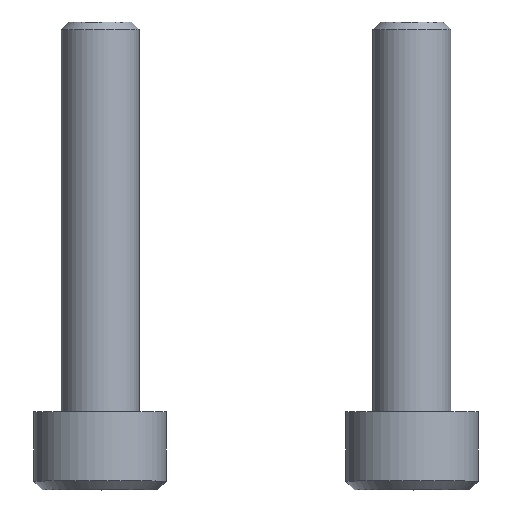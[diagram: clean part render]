
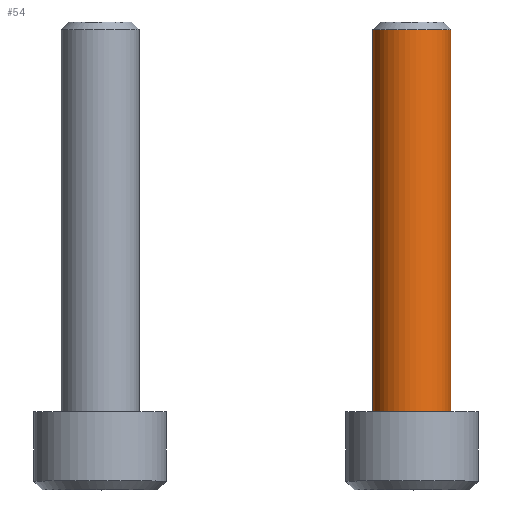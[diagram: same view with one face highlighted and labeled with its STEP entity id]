
A CAD part, top view. The second image highlights one B-rep face of the part: STEP entity #54.
In plain terms, the highlighted free-form (B-spline) face has degree [2, 1] with [9, 2] control points.
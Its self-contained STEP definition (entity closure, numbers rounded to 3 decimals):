
#54=ADVANCED_FACE('',(#79),#760,.T.);
#79=FACE_OUTER_BOUND('',#104,.T.);
#104=EDGE_LOOP('',(#195,#196,#197,#198));
#195=ORIENTED_EDGE('',*,*,#532,.F.);
#196=ORIENTED_EDGE('',*,*,#575,.T.);
#197=ORIENTED_EDGE('',*,*,#534,.F.);
#198=ORIENTED_EDGE('',*,*,#574,.F.);
#244=(
BOUNDED_CURVE()
B_SPLINE_CURVE(2,(#1381,#1382,#1383,#1384,#1385),.UNSPECIFIED.,.F.,.F.)
B_SPLINE_CURVE_WITH_KNOTS((3,2,3),(-7.854,-3.927,0.),
 .UNSPECIFIED.)
CURVE()
GEOMETRIC_REPRESENTATION_ITEM()
RATIONAL_B_SPLINE_CURVE((1.,0.707,1.,0.707,1.))
REPRESENTATION_ITEM('')
);
#245=(
BOUNDED_CURVE()
B_SPLINE_CURVE(2,(#1394,#1395,#1396,#1397,#1398),.UNSPECIFIED.,.F.,.F.)
B_SPLINE_CURVE_WITH_KNOTS((3,2,3),(-7.854,-3.927,0.),
 .UNSPECIFIED.)
CURVE()
GEOMETRIC_REPRESENTATION_ITEM()
RATIONAL_B_SPLINE_CURVE((1.,0.707,1.,0.707,1.))
REPRESENTATION_ITEM('')
);
#249=(
BOUNDED_CURVE()
B_SPLINE_CURVE(2,(#1420,#1421,#1422,#1423,#1424),.UNSPECIFIED.,.F.,.F.)
B_SPLINE_CURVE_WITH_KNOTS((3,2,3),(-7.854,-3.927,0.),
 .UNSPECIFIED.)
CURVE()
GEOMETRIC_REPRESENTATION_ITEM()
RATIONAL_B_SPLINE_CURVE((1.,0.707,1.,0.707,1.))
REPRESENTATION_ITEM('')
);
#263=PCURVE('',#755,#371);
#265=PCURVE('',#755,#373);
#336=PCURVE('',#759,#444);
#339=PCURVE('',#760,#447);
#340=PCURVE('',#760,#448);
#341=PCURVE('',#760,#449);
#342=PCURVE('',#760,#450);
#345=PCURVE('',#751,#453);
#371=DEFINITIONAL_REPRESENTATION('',(#592),#1481);
#373=DEFINITIONAL_REPRESENTATION('',(#595),#1481);
#444=DEFINITIONAL_REPRESENTATION('',(#684),#1481);
#447=DEFINITIONAL_REPRESENTATION('',(#687),#1481);
#448=DEFINITIONAL_REPRESENTATION('',(#688),#1481);
#449=DEFINITIONAL_REPRESENTATION('',(#689),#1481);
#450=DEFINITIONAL_REPRESENTATION('',(#690),#1481);
#453=DEFINITIONAL_REPRESENTATION('',(#249),#1481);
#478=SURFACE_CURVE('',#591,(#263,#339),.PCURVE_S1.);
#480=SURFACE_CURVE('',#594,(#265,#341),.PCURVE_S1.);
#520=SURFACE_CURVE('',#244,(#336,#342),.PCURVE_S1.);
#521=SURFACE_CURVE('',#245,(#340,#345),.PCURVE_S1.);
#532=EDGE_CURVE('',#711,#712,#478,.T.);
#534=EDGE_CURVE('',#713,#714,#480,.T.);
#574=EDGE_CURVE('',#712,#713,#520,.T.);
#575=EDGE_CURVE('',#711,#714,#521,.T.);
#591=B_SPLINE_CURVE_WITH_KNOTS('',1,(#1117,#1118),.UNSPECIFIED.,.F.,.F.,
(2,2),(-24.51,0.),.UNSPECIFIED.);
#592=B_SPLINE_CURVE_WITH_KNOTS('',1,(#1119,#1120),.UNSPECIFIED.,.F.,.F.,
(2,2),(-24.51,0.),.UNSPECIFIED.);
#594=B_SPLINE_CURVE_WITH_KNOTS('',1,(#1128,#1129),.UNSPECIFIED.,.F.,.F.,
(2,2),(-24.51,0.),.UNSPECIFIED.);
#595=B_SPLINE_CURVE_WITH_KNOTS('',1,(#1130,#1131),.UNSPECIFIED.,.F.,.F.,
(2,2),(-24.51,0.),.UNSPECIFIED.);
#684=B_SPLINE_CURVE_WITH_KNOTS('',1,(#1386,#1387),.UNSPECIFIED.,.F.,.F.,
(2,2),(-7.854,0.),.UNSPECIFIED.);
#687=B_SPLINE_CURVE_WITH_KNOTS('',1,(#1392,#1393),.UNSPECIFIED.,.F.,.F.,
(2,2),(-24.51,0.),.UNSPECIFIED.);
#688=B_SPLINE_CURVE_WITH_KNOTS('',1,(#1399,#1400),.UNSPECIFIED.,.F.,.F.,
(2,2),(-7.854,0.),.UNSPECIFIED.);
#689=B_SPLINE_CURVE_WITH_KNOTS('',1,(#1401,#1402),.UNSPECIFIED.,.F.,.F.,
(2,2),(-24.51,0.),.UNSPECIFIED.);
#690=B_SPLINE_CURVE_WITH_KNOTS('',1,(#1403,#1404),.UNSPECIFIED.,.F.,.F.,
(2,2),(-7.854,0.),.UNSPECIFIED.);
#711=VERTEX_POINT('',#1051);
#712=VERTEX_POINT('',#1052);
#713=VERTEX_POINT('',#1053);
#714=VERTEX_POINT('',#1054);
#751=PLANE('',#818);
#755=(
BOUNDED_SURFACE()
B_SPLINE_SURFACE(2,1,((#886,#887),(#888,#889),(#890,#891),(#892,#893),(#894,
#895),(#896,#897),(#898,#899),(#900,#901),(#902,#903)),.UNSPECIFIED.,.T.,
 .F.,.F.)
B_SPLINE_SURFACE_WITH_KNOTS((3,2,2,2,3),(2,2),(0.,1.571,3.142,
4.712,6.283),(0.,29.414),.UNSPECIFIED.)
GEOMETRIC_REPRESENTATION_ITEM()
RATIONAL_B_SPLINE_SURFACE(((1.,1.),(0.707,0.707),
(1.,1.),(0.707,0.707),(1.,1.),(0.707,
0.707),(1.,1.),(0.707,0.707),(1.,1.)))
REPRESENTATION_ITEM('')
SURFACE()
);
#759=(
BOUNDED_SURFACE()
B_SPLINE_SURFACE(2,1,((#971,#972),(#973,#974),(#975,#976),(#977,#978),(#979,
#980),(#981,#982),(#983,#984),(#985,#986),(#987,#988)),.UNSPECIFIED.,.T.,
 .F.,.F.)
B_SPLINE_SURFACE_WITH_KNOTS((3,2,2,2,3),(2,2),(0.,1.571,3.142,
4.712,6.283),(0.,3.891),.UNSPECIFIED.)
GEOMETRIC_REPRESENTATION_ITEM()
RATIONAL_B_SPLINE_SURFACE(((1.,1.),(0.707,0.707),
(1.,1.),(0.707,0.707),(1.,1.),(0.707,
0.707),(1.,1.),(0.707,0.707),(1.,1.)))
REPRESENTATION_ITEM('')
SURFACE()
);
#760=(
BOUNDED_SURFACE()
B_SPLINE_SURFACE(2,1,((#989,#990),(#991,#992),(#993,#994),(#995,#996),(#997,
#998),(#999,#1000),(#1001,#1002),(#1003,#1004),(#1005,#1006)),
 .UNSPECIFIED.,.T.,.F.,.F.)
B_SPLINE_SURFACE_WITH_KNOTS((3,2,2,2,3),(2,2),(0.,1.571,3.142,
4.712,6.283),(0.,29.414),.UNSPECIFIED.)
GEOMETRIC_REPRESENTATION_ITEM()
RATIONAL_B_SPLINE_SURFACE(((1.,1.),(0.707,0.707),
(1.,1.),(0.707,0.707),(1.,1.),(0.707,
0.707),(1.,1.),(0.707,0.707),(1.,1.)))
REPRESENTATION_ITEM('')
SURFACE()
);
#818=AXIS2_PLACEMENT_3D('',#1007,#840,$);
#840=DIRECTION('',(1.,0.,0.));
#886=CARTESIAN_POINT('',(-2.452,0.,2.5));
#887=CARTESIAN_POINT('',(26.962,0.,2.5));
#888=CARTESIAN_POINT('',(-2.452,-2.5,2.5));
#889=CARTESIAN_POINT('',(26.962,-2.5,2.5));
#890=CARTESIAN_POINT('',(-2.452,-2.5,0.));
#891=CARTESIAN_POINT('',(26.962,-2.5,0.));
#892=CARTESIAN_POINT('',(-2.452,-2.5,-2.5));
#893=CARTESIAN_POINT('',(26.962,-2.5,-2.5));
#894=CARTESIAN_POINT('',(-2.452,0.,-2.5));
#895=CARTESIAN_POINT('',(26.962,0.,-2.5));
#896=CARTESIAN_POINT('',(-2.452,2.5,-2.5));
#897=CARTESIAN_POINT('',(26.962,2.5,-2.5));
#898=CARTESIAN_POINT('',(-2.452,2.5,0.));
#899=CARTESIAN_POINT('',(26.962,2.5,0.));
#900=CARTESIAN_POINT('',(-2.452,2.5,2.5));
#901=CARTESIAN_POINT('',(26.962,2.5,2.5));
#902=CARTESIAN_POINT('',(-2.452,0.,2.5));
#903=CARTESIAN_POINT('',(26.962,0.,2.5));
#971=CARTESIAN_POINT('',(27.01,0.,0.));
#972=CARTESIAN_POINT('',(24.258,0.,-2.751));
#973=CARTESIAN_POINT('',(27.01,0.,0.));
#974=CARTESIAN_POINT('',(24.258,-2.751,-2.751));
#975=CARTESIAN_POINT('',(27.01,0.,0.));
#976=CARTESIAN_POINT('',(24.258,-2.751,0.));
#977=CARTESIAN_POINT('',(27.01,0.,0.));
#978=CARTESIAN_POINT('',(24.258,-2.751,2.751));
#979=CARTESIAN_POINT('',(27.01,0.,0.));
#980=CARTESIAN_POINT('',(24.258,0.,2.751));
#981=CARTESIAN_POINT('',(27.01,0.,0.));
#982=CARTESIAN_POINT('',(24.258,2.751,2.751));
#983=CARTESIAN_POINT('',(27.01,0.,0.));
#984=CARTESIAN_POINT('',(24.258,2.751,0.));
#985=CARTESIAN_POINT('',(27.01,0.,0.));
#986=CARTESIAN_POINT('',(24.258,2.751,-2.751));
#987=CARTESIAN_POINT('',(27.01,0.,0.));
#988=CARTESIAN_POINT('',(24.258,0.,-2.751));
#989=CARTESIAN_POINT('',(-2.452,0.,-2.5));
#990=CARTESIAN_POINT('',(26.962,0.,-2.5));
#991=CARTESIAN_POINT('',(-2.452,2.5,-2.5));
#992=CARTESIAN_POINT('',(26.962,2.5,-2.5));
#993=CARTESIAN_POINT('',(-2.452,2.5,0.));
#994=CARTESIAN_POINT('',(26.962,2.5,0.));
#995=CARTESIAN_POINT('',(-2.452,2.5,2.5));
#996=CARTESIAN_POINT('',(26.962,2.5,2.5));
#997=CARTESIAN_POINT('',(-2.452,0.,2.5));
#998=CARTESIAN_POINT('',(26.962,0.,2.5));
#999=CARTESIAN_POINT('',(-2.452,-2.5,2.5));
#1000=CARTESIAN_POINT('',(26.962,-2.5,2.5));
#1001=CARTESIAN_POINT('',(-2.452,-2.5,0.));
#1002=CARTESIAN_POINT('',(26.962,-2.5,0.));
#1003=CARTESIAN_POINT('',(-2.452,-2.5,-2.5));
#1004=CARTESIAN_POINT('',(26.962,-2.5,-2.5));
#1005=CARTESIAN_POINT('',(-2.452,0.,-2.5));
#1006=CARTESIAN_POINT('',(26.962,0.,-2.5));
#1007=CARTESIAN_POINT('',(0.,5.101,5.101));
#1051=CARTESIAN_POINT('',(0.,2.5,0.));
#1052=CARTESIAN_POINT('',(24.51,2.5,0.));
#1053=CARTESIAN_POINT('',(24.51,-2.5,0.));
#1054=CARTESIAN_POINT('',(0.,-2.5,0.));
#1117=CARTESIAN_POINT('',(0.,2.5,0.));
#1118=CARTESIAN_POINT('',(24.51,2.5,0.));
#1119=CARTESIAN_POINT('',(4.712,2.452));
#1120=CARTESIAN_POINT('',(4.712,26.962));
#1128=CARTESIAN_POINT('',(24.51,-2.5,0.));
#1129=CARTESIAN_POINT('',(0.,-2.5,0.));
#1130=CARTESIAN_POINT('',(1.571,26.962));
#1131=CARTESIAN_POINT('',(1.571,2.452));
#1381=CARTESIAN_POINT('',(24.51,2.5,0.));
#1382=CARTESIAN_POINT('',(24.51,2.5,2.5));
#1383=CARTESIAN_POINT('',(24.51,0.,2.5));
#1384=CARTESIAN_POINT('',(24.51,-2.5,2.5));
#1385=CARTESIAN_POINT('',(24.51,-2.5,0.));
#1386=CARTESIAN_POINT('',(4.712,3.536));
#1387=CARTESIAN_POINT('',(1.571,3.536));
#1392=CARTESIAN_POINT('',(1.571,2.452));
#1393=CARTESIAN_POINT('',(1.571,26.962));
#1394=CARTESIAN_POINT('',(0.,2.5,0.));
#1395=CARTESIAN_POINT('',(0.,2.5,2.5));
#1396=CARTESIAN_POINT('',(0.,0.,2.5));
#1397=CARTESIAN_POINT('',(0.,-2.5,2.5));
#1398=CARTESIAN_POINT('',(0.,-2.5,0.));
#1399=CARTESIAN_POINT('',(1.571,2.452));
#1400=CARTESIAN_POINT('',(4.712,2.452));
#1401=CARTESIAN_POINT('',(4.712,26.962));
#1402=CARTESIAN_POINT('',(4.712,2.452));
#1403=CARTESIAN_POINT('',(1.571,26.962));
#1404=CARTESIAN_POINT('',(4.712,26.962));
#1420=CARTESIAN_POINT('',(0.875,0.));
#1421=CARTESIAN_POINT('',(0.875,-2.5));
#1422=CARTESIAN_POINT('',(3.375,-2.5));
#1423=CARTESIAN_POINT('',(5.875,-2.5));
#1424=CARTESIAN_POINT('',(5.875,0.));
#1481=(
GEOMETRIC_REPRESENTATION_CONTEXT(2)
PARAMETRIC_REPRESENTATION_CONTEXT()
REPRESENTATION_CONTEXT('pspace','')
);
